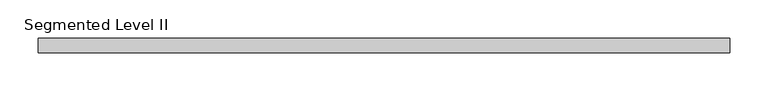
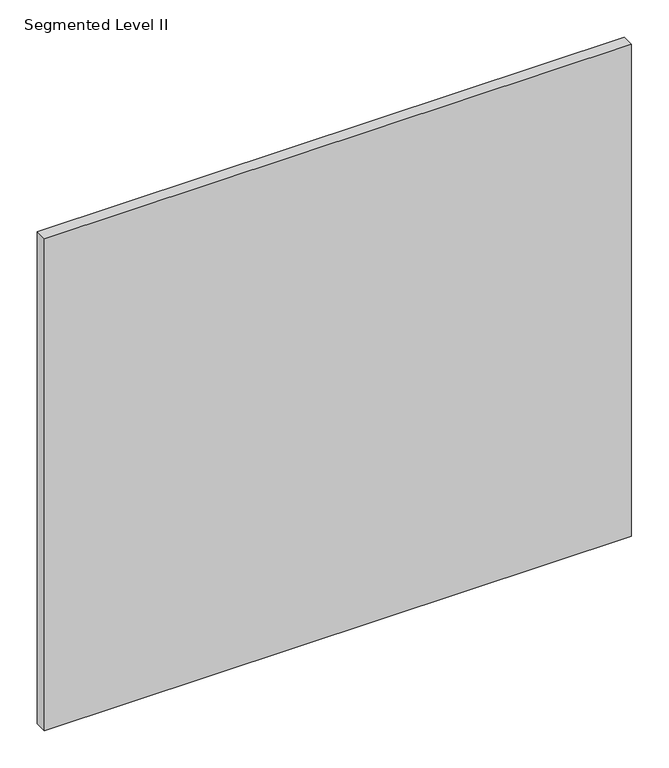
"""IFC4 building model written with IfcOpenShell, lengths in millimetres: proxy geometry, Panel-Fascia-Teknion-Altos-Standard : Segmented Level II."""

from ifc_helpers import new_model, si_unit, frame, origin, place, context, project, spatial, polyline, outline, extrude, source, transform, mapped, element, save


def segmented_level_ii_6dac37f0(model_context):
    return source(origin(), model_context, "Body", "SweptSolid", [
        extrude(outline(polyline([(454.025, 9.525), (454.025, -9.525), (-454.025, -9.525), (-454.025, 9.525), (454.025, 9.525)])), frame((0.0, 0.0, 3.175), z_axis=(0.0, 0.0, 1.0), x_axis=(1.0, 0.0, 0.0)), (0.0, 0.0, 1.0), 804.418),
    ])


if __name__ == "__main__":
    model = new_model("IFC4")
    model_context = context("Model", 3, world=origin())
    ifc_project = project(units=[si_unit("LENGTHUNIT", "METRE", prefix="MILLI")], contexts=[model_context])
    site = spatial("IfcSite", under=ifc_project)
    building = spatial("IfcBuilding", under=site)
    placement = place(None, origin())
    segmented_level_ii_shape = segmented_level_ii_6dac37f0(model_context)
    element("IfcBuildingElementProxy", 1, Name="Panel-Fascia-Teknion-Altos-Standard : Segmented Level II", ObjectType="Panel-Fascia-Teknion-Altos-Standard : Segmented Level II", at=placement, inside=building, context=model_context, shape_type="MappedRepresentation", body=[
        mapped(segmented_level_ii_shape, transform((0.0, 0.0, 0.0), x_axis=(1.0, 0.0, 0.0), y_axis=(0.0, 1.0, 0.0), z_axis=(0.0, 0.0, 1.0))),
    ])
    save(model, "model.ifc")
